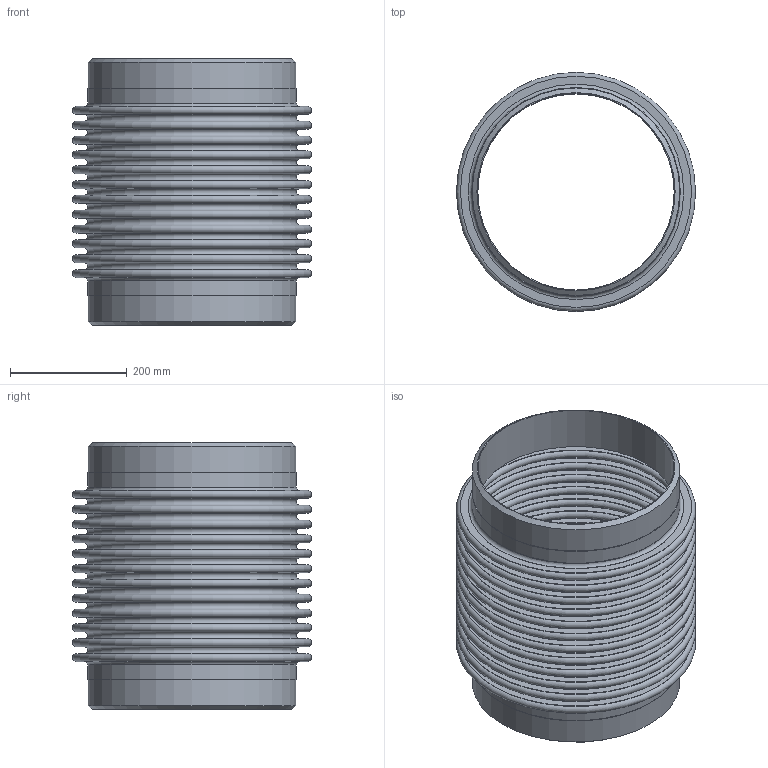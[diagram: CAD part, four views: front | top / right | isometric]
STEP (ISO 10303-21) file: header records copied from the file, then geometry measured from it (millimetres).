
FILE_DESCRIPTION(/* description */ ('EXPANSION JOINT,SINGLE, WELD ENDS,4 INCH NOMINAL'),/* implementation_level */ '2;1');
FILE_NAME(/* name */ 'ASSEMBLY US-14-12-85L.stp',/* time_stamp */ '2026-07-29T15:53:06-05:00',/* author */ ('jorgef'),/* organization */ (''),/* preprocessor_version */ 'ST-DEVELOPER v20.1',/* originating_system */ 'Autodesk Inventor 2026',/* authorisation */ '');
FILE_SCHEMA (('AUTOMOTIVE_DESIGN { 1 0 10303 214 3 1 1 }'));
Length unit declared in the file: inch
Products named in the file (3): ASSEMBLY  US-14-12-85L; STOCK BELLOW - US-14-12-85L; PIPE- US-14-12-85L
Assembly tree (3 placements, depth 2):
  ASSEMBLY  US-14-12-85L
    STOCK BELLOW - US-14-12-85L
    PIPE- US-14-12-85L  x2
Bounding box: 409.57 x 409.57 x 457.2 mm (x, y, z)
Volume: 2455996.9 mm3; surface area: 2406110.2 mm2
Topology: 5 solids, 5 shells, 118 faces, 180 edges, 121 vertices
Faces by surface type: plane 58, torus 50, cylinder 8, cone 2
Full cylindrical faces by diameter (mm): 336.55 x2, 355.6 x4, 357.429 x2
Entity records: 2769 total; most frequent: DIRECTION 573, CARTESIAN_POINT 405, ORIENTED_EDGE 342, AXIS2_PLACEMENT_3D 283, EDGE_CURVE 171, EDGE_LOOP 169, CIRCLE 164, VERTEX_POINT 114
